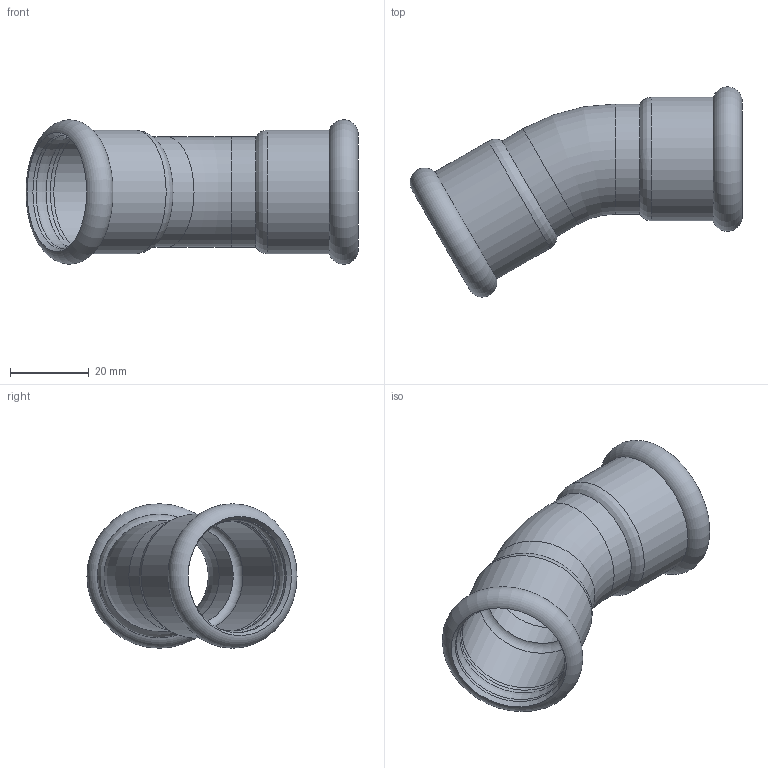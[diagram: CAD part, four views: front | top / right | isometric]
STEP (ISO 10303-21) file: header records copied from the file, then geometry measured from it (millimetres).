
FILE_DESCRIPTION(/* description */ ('Curva 30° FF De28'),/* implementation_level */ '2;1');
FILE_NAME(/* name */ 'R:\Disegni3D_Area_Manager\Inoxpres.step\181_300INOXPRES\181028300_Inoxpres.stp',/* time_stamp */ '2022-10-11T08:27:11+02:00',/* author */ ('Vault'),/* organization */ ('Raccorderie metalliche s.p.a. '),/* preprocessor_version */ 'ST-DEVELOPER v18.1',/* originating_system */ 'Autodesk Inventor 2020',/* authorisation */ 'Raccorderie metalliche s.p.a. ');
FILE_SCHEMA (('AUTOMOTIVE_DESIGN { 1 0 10303 214 3 1 1 }'));
Length unit declared in the file: millimetre
Products named in the file (1): 181028300_Inoxpres
Bounding box: 84.34 x 53.37 x 36.68 mm (x, y, z)
Volume: 13931.4 mm3; surface area: 15741.1 mm2
Topology: 1 solids, 1 shells, 26 faces, 96 edges, 70 vertices
Faces by surface type: torus 12, cylinder 12, cone 2
Full cylindrical faces by diameter (mm): 25 x2, 28 x2, 28.4 x2, 28.8 x4, 31.4 x2
Entity records: 1151 total; most frequent: DIRECTION 232, CARTESIAN_POINT 193, ORIENTED_EDGE 192, AXIS2_PLACEMENT_3D 109, EDGE_CURVE 96, CIRCLE 82, VERTEX_POINT 70, FACE_OUTER_BOUND 26
